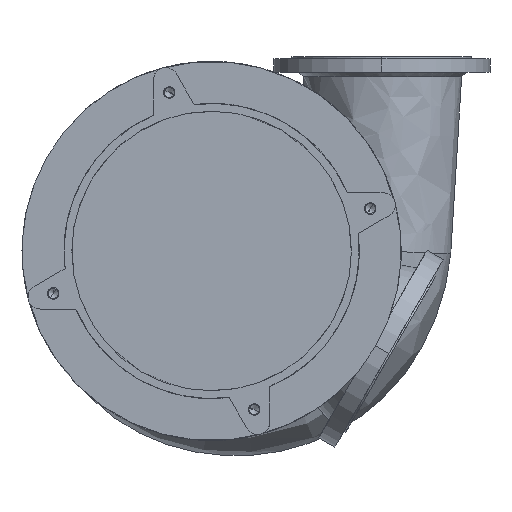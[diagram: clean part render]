
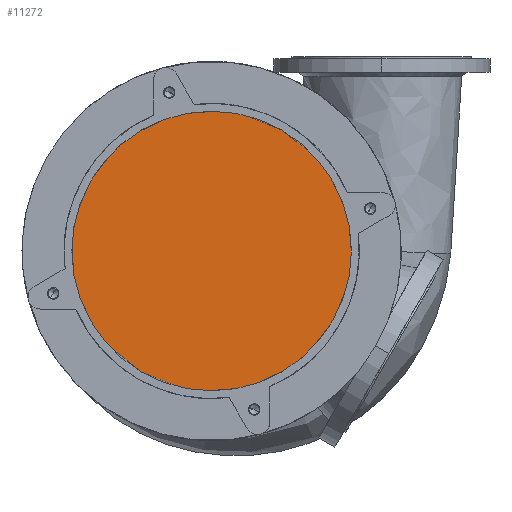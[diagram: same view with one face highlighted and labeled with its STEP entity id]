
A CAD part, front view. The second image highlights one B-rep face of the part: STEP entity #11272.
In plain terms, the highlighted planar face has unit normal (0, -1, 0).
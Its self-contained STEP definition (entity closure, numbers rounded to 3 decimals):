
#4661=CARTESIAN_POINT('',(0.,0.,0.));
#4662=DIRECTION('',(0.,-1.,0.));
#4663=DIRECTION('',(0.,0.,1.));
#4664=AXIS2_PLACEMENT_3D('',#4661,#4662,#4663);
#4666=CARTESIAN_POINT('',(0.,0.,0.));
#4667=DIRECTION('',(0.,-1.,0.));
#4668=DIRECTION('',(0.,0.,-1.));
#4669=AXIS2_PLACEMENT_3D('',#4666,#4667,#4668);
#11089=CARTESIAN_POINT('',(0.,0.,287.5));
#11090=CARTESIAN_POINT('',(0.,0.,-287.5));
#11091=VERTEX_POINT('',#11089);
#11092=VERTEX_POINT('',#11090);
#11261=CARTESIAN_POINT('',(0.,0.,0.));
#11262=DIRECTION('',(0.,1.,0.));
#11263=DIRECTION('',(0.,0.,-1.));
#11264=AXIS2_PLACEMENT_3D('',#11261,#11262,#11263);
#11265=PLANE('',#11264);
#11267=ORIENTED_EDGE('',*,*,#11266,.F.);
#11269=ORIENTED_EDGE('',*,*,#11268,.F.);
#11270=EDGE_LOOP('',(#11267,#11269));
#11271=FACE_OUTER_BOUND('',#11270,.F.);
#11272=ADVANCED_FACE('',(#11271),#11265,.F.);
#4665=CIRCLE('',#4664,287.5);
#4670=CIRCLE('',#4669,287.5);
#11266=EDGE_CURVE('',#11091,#11092,#4665,.T.);
#11268=EDGE_CURVE('',#11092,#11091,#4670,.T.);
